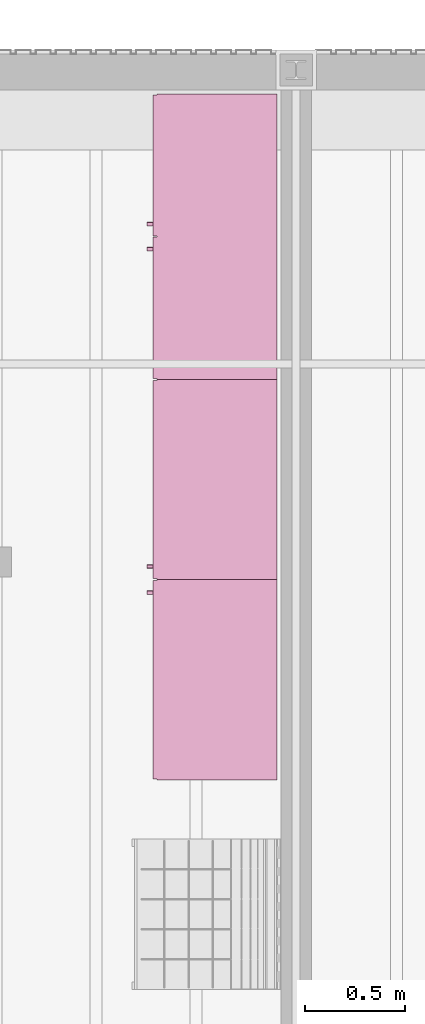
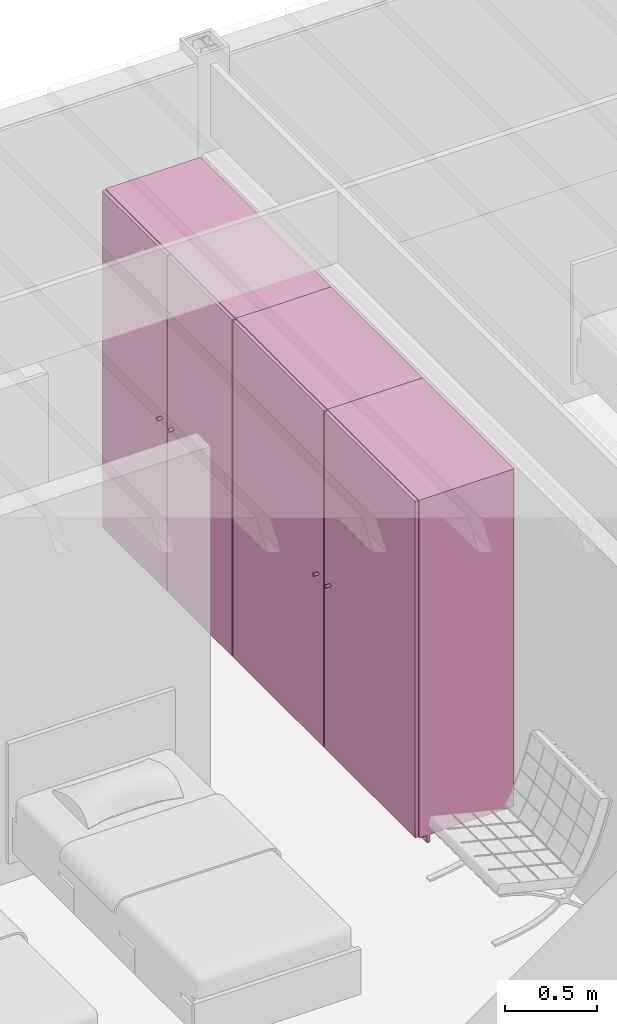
# One storey, part 25 of 28: 3 furniture elements.
"""IFC4X3_ADD2 building model written with IfcOpenShell, lengths in metres."""

from ifc_helpers import new_model, si_unit, direction, frame, frame_2d, origin_with_axes, origin_2d_with_axis, place, context, subcontext, project, spatial, polyline, rectangle, outline, extrude, source, transform, mapped, material, element, save


model = new_model("IFC4X3_ADD2")

# Units and contexts
model_context = context("Model", 3, precision=1e-05, world=origin_with_axes(), true_north=direction((0.0, 1.0)))
body_context = subcontext(model_context, "Body", "Model", "MODEL_VIEW")
ifc_project = project(units=[si_unit("LENGTHUNIT", "METRE"), si_unit("AREAUNIT", "SQUARE_METRE"), si_unit("VOLUMEUNIT", "CUBIC_METRE"), si_unit("PLANEANGLEUNIT", "RADIAN"), si_unit("TIMEUNIT", "SECOND"), si_unit("MASSUNIT", "GRAM")], contexts=[model_context])

# Site, building, storey, space
site_placement = place(None, origin_with_axes())
site = spatial("IfcSite", under=ifc_project, at=site_placement, Name="Site", CompositionType="ELEMENT")
building_placement = place(site_placement, origin_with_axes())
building = spatial("IfcBuilding", under=site, at=building_placement, Name="Default Building")
storey_placement = place(building_placement, frame((0.0, 0.0, -0.08), z_axis=(0.0, 0.0, 1.0), x_axis=(1.0, 0.0, 0.0)))
storey = spatial("IfcBuildingStorey", under=building, at=storey_placement, Name="Gruendung", Elevation=-0.08)
space_placement = place(storey_placement, frame((6.600001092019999, 16.100001, 0.08), z_axis=(0.0, 0.0, 1.0), x_axis=(1.0, 0.0, 0.0)))
space = spatial("IfcSpace", under=storey, at=space_placement, Name="Space", CompositionType="ELEMENT", PredefinedType="SPACE")

# Furniture
ifc_material = material(Name="Default")
shared_shape_1 = source(origin_with_axes(), body_context, "Body", "SweptSolid", [
    extrude(rectangle(XDim=0.6, YDim=0.02, at=frame_2d((0.0, 0.0), x_axis=(0.0, 1.0))), frame((0.01, 0.3, 0.05000000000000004), z_axis=(0.0, 0.0, 1.0), x_axis=(1.0, 0.0, 0.0)), (0.0, 0.0, 1.0), 2.25),
    extrude(rectangle(XDim=0.6, YDim=0.02000000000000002, at=frame_2d((0.0, 0.0), x_axis=(0.0, 1.0))), frame((1.415, 0.3, 0.05000000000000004), z_axis=(0.0, 0.0, 1.0), x_axis=(1.0, 0.0, 0.0)), (0.0, 0.0, 1.0), 2.25),
    extrude(rectangle(XDim=1.385, YDim=0.6, at=origin_2d_with_axis()), frame((0.7125, 0.3, 2.28), z_axis=(0.0, 0.0, 1.0), x_axis=(1.0, 0.0, 0.0)), (0.0, 0.0, 1.0), 0.01999999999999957),
    extrude(rectangle(XDim=1.385, YDim=0.6, at=origin_2d_with_axis()), frame((0.7125, 0.3, 0.05), z_axis=(0.0, 0.0, 1.0), x_axis=(1.0, 0.0, 0.0)), (0.0, 0.0, 1.0), 0.02),
    extrude(rectangle(XDim=1.385, YDim=0.02000000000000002, at=origin_2d_with_axis()), frame((0.7125, 0.589, 0.06999999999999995), z_axis=(0.0, 0.0, 1.0), x_axis=(1.0, 0.0, 0.0)), (0.0, 0.0, 1.0), 2.21),
    extrude(rectangle(XDim=0.705, YDim=0.02, at=origin_2d_with_axis()), frame((0.3574999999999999, -0.0115, 0.05500000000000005), z_axis=(0.0, 0.0, 1.0), x_axis=(1.0, 0.0, 0.0)), (0.0, 0.0, 1.0), 2.24),
    extrude(rectangle(XDim=0.7049999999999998, YDim=0.02, at=origin_2d_with_axis()), frame((1.0675, -0.0115, 0.05500000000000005), z_axis=(0.0, 0.0, 1.0), x_axis=(1.0, 0.0, 0.0)), (0.0, 0.0, 1.0), 2.24),
    extrude(rectangle(XDim=1.425, YDim=0.02, at=origin_2d_with_axis()), frame((0.7125, 0.06, 0.0), z_axis=(0.0, 0.0, 1.0), x_axis=(1.0, 0.0, 0.0)), (0.0, 0.0, 1.0), 0.05),
    extrude(outline(polyline([(0.00980751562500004, 0.00195048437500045), (0.009951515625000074, 0.0009794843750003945), (0.009999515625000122, 4.843750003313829e-07), (0.009951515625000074, -0.0009795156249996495), (0.00980751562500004, -0.001950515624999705), (0.009568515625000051, -0.002902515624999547), (0.00923851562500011, -0.003826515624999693), (0.008818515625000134, -0.004713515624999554), (0.008314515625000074, -0.005555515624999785), (0.007729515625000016, -0.006343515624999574), (0.007070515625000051, -0.007070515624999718), (0.006343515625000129, -0.007729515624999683), (0.005555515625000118, -0.008314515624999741), (0.004713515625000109, -0.008818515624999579), (0.003826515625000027, -0.009238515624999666), (0.002902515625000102, -0.009568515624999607), (0.001950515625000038, -0.009807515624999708), (0.0009795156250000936, -0.00995151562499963), (-4.843749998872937e-07, -0.009999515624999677), (-0.0009794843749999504, -0.00995151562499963), (-0.001950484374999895, -0.009807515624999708), (-0.002902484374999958, -0.009568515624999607), (-0.003826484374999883, -0.009238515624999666), (-0.004713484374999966, -0.008818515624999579), (-0.005555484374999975, -0.008314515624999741), (-0.006343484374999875, -0.007729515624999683), (-0.007070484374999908, -0.007070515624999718), (-0.007729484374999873, -0.006343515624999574), (-0.008314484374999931, -0.005555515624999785), (-0.00881848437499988, -0.004713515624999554), (-0.009238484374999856, -0.003826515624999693), (-0.009568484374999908, -0.002902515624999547), (-0.009807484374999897, -0.001950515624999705), (-0.00995148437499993, -0.0009795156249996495), (-0.009999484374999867, 4.843750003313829e-07), (-0.00995148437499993, 0.0009794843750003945), (-0.009807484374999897, 0.00195048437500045), (-0.009568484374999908, 0.002902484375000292), (-0.009238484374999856, 0.003826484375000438), (-0.00881848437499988, 0.004713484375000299), (-0.008314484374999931, 0.005555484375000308), (-0.007729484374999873, 0.006343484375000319), (-0.007070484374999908, 0.007070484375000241), (-0.006343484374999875, 0.007729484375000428), (-0.005555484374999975, 0.008314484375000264), (-0.004713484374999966, 0.008818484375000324), (-0.003826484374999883, 0.00923848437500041), (-0.002902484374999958, 0.009568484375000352), (-0.001950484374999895, 0.009807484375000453), (-0.0009794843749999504, 0.009951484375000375), (-4.843749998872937e-07, 0.009999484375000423), (0.0009795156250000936, 0.009951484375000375), (0.001950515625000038, 0.009807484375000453), (0.002902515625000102, 0.009568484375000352), (0.003826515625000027, 0.00923848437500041), (0.004713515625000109, 0.008818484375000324), (0.005555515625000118, 0.008314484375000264), (0.006343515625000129, 0.007729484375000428), (0.007070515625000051, 0.007070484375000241), (0.007729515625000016, 0.006343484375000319), (0.008314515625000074, 0.005555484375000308), (0.008818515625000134, 0.004713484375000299), (0.00923851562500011, 0.003826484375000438), (0.009568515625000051, 0.002902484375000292), (0.00980751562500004, 0.00195048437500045)])), frame((0.6500004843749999, -0.05149999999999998, 1.175000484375), z_axis=(0.0, 1.0, 0.0), x_axis=(1.0, 0.0, 0.0)), (0.0, 0.0, 1.0), 0.02999999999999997),
    extrude(outline(polyline([(0.00980751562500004, 0.00195048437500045), (0.009951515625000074, 0.0009794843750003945), (0.009999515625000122, 4.843750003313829e-07), (0.009951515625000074, -0.0009795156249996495), (0.00980751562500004, -0.001950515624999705), (0.009568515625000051, -0.002902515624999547), (0.00923851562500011, -0.003826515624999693), (0.008818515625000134, -0.004713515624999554), (0.008314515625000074, -0.005555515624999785), (0.007729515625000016, -0.006343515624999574), (0.007070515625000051, -0.007070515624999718), (0.006343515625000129, -0.007729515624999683), (0.005555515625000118, -0.008314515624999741), (0.004713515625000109, -0.008818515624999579), (0.003826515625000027, -0.009238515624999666), (0.002902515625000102, -0.009568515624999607), (0.001950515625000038, -0.009807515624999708), (0.0009795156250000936, -0.00995151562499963), (-4.843749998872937e-07, -0.009999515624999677), (-0.0009794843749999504, -0.00995151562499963), (-0.001950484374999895, -0.009807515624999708), (-0.002902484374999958, -0.009568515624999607), (-0.003826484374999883, -0.009238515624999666), (-0.004713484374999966, -0.008818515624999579), (-0.005555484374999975, -0.008314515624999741), (-0.006343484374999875, -0.007729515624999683), (-0.007070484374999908, -0.007070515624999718), (-0.007729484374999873, -0.006343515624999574), (-0.008314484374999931, -0.005555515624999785), (-0.00881848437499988, -0.004713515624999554), (-0.009238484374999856, -0.003826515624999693), (-0.009568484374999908, -0.002902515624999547), (-0.009807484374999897, -0.001950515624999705), (-0.00995148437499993, -0.0009795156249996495), (-0.009999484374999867, 4.843750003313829e-07), (-0.00995148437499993, 0.0009794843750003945), (-0.009807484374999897, 0.00195048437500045), (-0.009568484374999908, 0.002902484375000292), (-0.009238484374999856, 0.003826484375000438), (-0.00881848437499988, 0.004713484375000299), (-0.008314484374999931, 0.005555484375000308), (-0.007729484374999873, 0.006343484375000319), (-0.007070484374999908, 0.007070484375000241), (-0.006343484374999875, 0.007729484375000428), (-0.005555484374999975, 0.008314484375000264), (-0.004713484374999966, 0.008818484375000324), (-0.003826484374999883, 0.00923848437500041), (-0.002902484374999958, 0.009568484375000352), (-0.001950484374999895, 0.009807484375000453), (-0.0009794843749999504, 0.009951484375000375), (-4.843749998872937e-07, 0.009999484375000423), (0.0009795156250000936, 0.009951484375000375), (0.001950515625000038, 0.009807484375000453), (0.002902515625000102, 0.009568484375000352), (0.003826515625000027, 0.00923848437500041), (0.004713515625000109, 0.008818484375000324), (0.005555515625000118, 0.008314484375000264), (0.006343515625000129, 0.007729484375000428), (0.007070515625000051, 0.007070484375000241), (0.007729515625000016, 0.006343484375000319), (0.008314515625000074, 0.005555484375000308), (0.008818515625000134, 0.004713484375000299), (0.00923851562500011, 0.003826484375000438), (0.009568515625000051, 0.002902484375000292), (0.00980751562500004, 0.00195048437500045)])), frame((0.7750004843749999, -0.05149999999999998, 1.175000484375), z_axis=(0.0, 1.0, 0.0), x_axis=(1.0, 0.0, 0.0)), (0.0, 0.0, 1.0), 0.02999999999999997),
])
furniture_1_placement = place(storey_placement, frame((11.805, 21.88, 0.08), z_axis=(0.0, 0.0, 1.0), x_axis=(0.0, -1.0, 0.0)))
element("IfcFurniture", 1, at=furniture_1_placement, inside=space, material=ifc_material, Name="IfcFurniture", PredefinedType="FILECABINET", context=body_context, shape_type="MappedRepresentation", body=[
    mapped(shared_shape_1, transform((0.0, 0.0, 0.0))),
])
shared_shape_2 = source(origin_with_axes(), body_context, "Body", "SweptSolid", [
    extrude(rectangle(XDim=0.6, YDim=0.02, at=frame_2d((0.0, 0.0), x_axis=(0.0, 1.0))), frame((0.01, 0.3, 0.05000000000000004), z_axis=(0.0, 0.0, 1.0), x_axis=(1.0, 0.0, 0.0)), (0.0, 0.0, 1.0), 2.25),
    extrude(rectangle(XDim=0.6, YDim=0.02000000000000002, at=frame_2d((0.0, 0.0), x_axis=(0.0, 1.0))), frame((0.99, 0.3, 0.05000000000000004), z_axis=(0.0, 0.0, 1.0), x_axis=(1.0, 0.0, 0.0)), (0.0, 0.0, 1.0), 2.25),
    extrude(rectangle(XDim=0.96, YDim=0.6, at=origin_2d_with_axis()), frame((0.5, 0.3, 2.28), z_axis=(0.0, 0.0, 1.0), x_axis=(1.0, 0.0, 0.0)), (0.0, 0.0, 1.0), 0.01999999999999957),
    extrude(rectangle(XDim=0.96, YDim=0.6, at=origin_2d_with_axis()), frame((0.5, 0.3, 0.05), z_axis=(0.0, 0.0, 1.0), x_axis=(1.0, 0.0, 0.0)), (0.0, 0.0, 1.0), 0.02),
    extrude(rectangle(XDim=0.96, YDim=0.02000000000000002, at=origin_2d_with_axis()), frame((0.5, 0.589, 0.06999999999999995), z_axis=(0.0, 0.0, 1.0), x_axis=(1.0, 0.0, 0.0)), (0.0, 0.0, 1.0), 2.21),
    extrude(rectangle(XDim=0.99, YDim=0.02, at=origin_2d_with_axis()), frame((0.5, -0.0115, 0.05500000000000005), z_axis=(0.0, 0.0, 1.0), x_axis=(1.0, 0.0, 0.0)), (0.0, 0.0, 1.0), 2.24),
    extrude(rectangle(XDim=1.0, YDim=0.02, at=origin_2d_with_axis()), frame((0.5, 0.06, 0.0), z_axis=(0.0, 0.0, 1.0), x_axis=(1.0, 0.0, 0.0)), (0.0, 0.0, 1.0), 0.05),
    extrude(outline(polyline([(0.00980751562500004, 0.00195048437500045), (0.009951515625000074, 0.0009794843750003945), (0.009999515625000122, 4.843750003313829e-07), (0.009951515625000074, -0.0009795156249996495), (0.00980751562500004, -0.001950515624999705), (0.009568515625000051, -0.002902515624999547), (0.00923851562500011, -0.003826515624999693), (0.008818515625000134, -0.004713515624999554), (0.008314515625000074, -0.005555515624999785), (0.007729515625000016, -0.006343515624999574), (0.007070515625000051, -0.007070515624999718), (0.006343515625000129, -0.007729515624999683), (0.005555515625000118, -0.008314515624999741), (0.004713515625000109, -0.008818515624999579), (0.003826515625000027, -0.009238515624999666), (0.002902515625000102, -0.009568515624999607), (0.001950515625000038, -0.009807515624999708), (0.0009795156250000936, -0.00995151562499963), (-4.843749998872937e-07, -0.009999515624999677), (-0.0009794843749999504, -0.00995151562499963), (-0.001950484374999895, -0.009807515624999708), (-0.002902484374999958, -0.009568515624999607), (-0.003826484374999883, -0.009238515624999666), (-0.004713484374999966, -0.008818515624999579), (-0.005555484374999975, -0.008314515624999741), (-0.006343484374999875, -0.007729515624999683), (-0.007070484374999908, -0.007070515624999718), (-0.007729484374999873, -0.006343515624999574), (-0.008314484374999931, -0.005555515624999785), (-0.00881848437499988, -0.004713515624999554), (-0.009238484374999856, -0.003826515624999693), (-0.009568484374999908, -0.002902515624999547), (-0.009807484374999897, -0.001950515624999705), (-0.00995148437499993, -0.0009795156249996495), (-0.009999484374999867, 4.843750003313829e-07), (-0.00995148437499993, 0.0009794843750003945), (-0.009807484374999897, 0.00195048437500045), (-0.009568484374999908, 0.002902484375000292), (-0.009238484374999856, 0.003826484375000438), (-0.00881848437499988, 0.004713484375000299), (-0.008314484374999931, 0.005555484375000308), (-0.007729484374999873, 0.006343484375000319), (-0.007070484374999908, 0.007070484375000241), (-0.006343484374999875, 0.007729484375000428), (-0.005555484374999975, 0.008314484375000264), (-0.004713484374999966, 0.008818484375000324), (-0.003826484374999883, 0.00923848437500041), (-0.002902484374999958, 0.009568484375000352), (-0.001950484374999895, 0.009807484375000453), (-0.0009794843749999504, 0.009951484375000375), (-4.843749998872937e-07, 0.009999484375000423), (0.0009795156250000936, 0.009951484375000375), (0.001950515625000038, 0.009807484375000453), (0.002902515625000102, 0.009568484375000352), (0.003826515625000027, 0.00923848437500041), (0.004713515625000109, 0.008818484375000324), (0.005555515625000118, 0.008314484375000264), (0.006343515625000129, 0.007729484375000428), (0.007070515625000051, 0.007070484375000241), (0.007729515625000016, 0.006343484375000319), (0.008314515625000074, 0.005555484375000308), (0.008818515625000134, 0.004713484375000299), (0.00923851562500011, 0.003826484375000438), (0.009568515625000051, 0.002902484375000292), (0.00980751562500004, 0.00195048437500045)])), frame((0.9350004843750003, -0.05149999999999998, 1.175000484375), z_axis=(0.0, 1.0, 0.0), x_axis=(1.0, 0.0, 0.0)), (0.0, 0.0, 1.0), 0.02999999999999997),
])
furniture_2_placement = place(storey_placement, frame((11.805, 20.455, 0.08), z_axis=(0.0, 0.0, 1.0), x_axis=(0.0, -1.0, 0.0)))
element("IfcFurniture", 2, at=furniture_2_placement, inside=space, material=ifc_material, Name="IfcFurniture", PredefinedType="FILECABINET", context=body_context, shape_type="MappedRepresentation", body=[
    mapped(shared_shape_2, transform((0.0, 0.0, 0.0))),
])
shared_shape_3 = source(origin_with_axes(), body_context, "Body", "SweptSolid", [
    extrude(rectangle(XDim=0.6, YDim=0.02, at=frame_2d((0.0, 0.0), x_axis=(0.0, 1.0))), frame((0.01, 0.3, 0.05000000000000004), z_axis=(0.0, 0.0, 1.0), x_axis=(1.0, 0.0, 0.0)), (0.0, 0.0, 1.0), 2.25),
    extrude(rectangle(XDim=0.6, YDim=0.02000000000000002, at=frame_2d((0.0, 0.0), x_axis=(0.0, 1.0))), frame((0.99, 0.3, 0.05000000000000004), z_axis=(0.0, 0.0, 1.0), x_axis=(1.0, 0.0, 0.0)), (0.0, 0.0, 1.0), 2.25),
    extrude(rectangle(XDim=0.96, YDim=0.6, at=origin_2d_with_axis()), frame((0.5, 0.3, 2.28), z_axis=(0.0, 0.0, 1.0), x_axis=(1.0, 0.0, 0.0)), (0.0, 0.0, 1.0), 0.01999999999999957),
    extrude(rectangle(XDim=0.96, YDim=0.6, at=origin_2d_with_axis()), frame((0.5, 0.3, 0.05), z_axis=(0.0, 0.0, 1.0), x_axis=(1.0, 0.0, 0.0)), (0.0, 0.0, 1.0), 0.02),
    extrude(rectangle(XDim=0.96, YDim=0.02000000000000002, at=origin_2d_with_axis()), frame((0.5, 0.589, 0.06999999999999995), z_axis=(0.0, 0.0, 1.0), x_axis=(1.0, 0.0, 0.0)), (0.0, 0.0, 1.0), 2.21),
    extrude(rectangle(XDim=0.99, YDim=0.02, at=origin_2d_with_axis()), frame((0.5, -0.0115, 0.05500000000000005), z_axis=(0.0, 0.0, 1.0), x_axis=(1.0, 0.0, 0.0)), (0.0, 0.0, 1.0), 2.24),
    extrude(rectangle(XDim=1.0, YDim=0.02, at=origin_2d_with_axis()), frame((0.5, 0.06, 0.0), z_axis=(0.0, 0.0, 1.0), x_axis=(1.0, 0.0, 0.0)), (0.0, 0.0, 1.0), 0.05),
    extrude(outline(polyline([(0.00980751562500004, 0.00195048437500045), (0.009951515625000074, 0.0009794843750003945), (0.009999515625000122, 4.843750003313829e-07), (0.009951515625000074, -0.0009795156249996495), (0.00980751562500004, -0.001950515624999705), (0.009568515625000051, -0.002902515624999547), (0.00923851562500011, -0.003826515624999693), (0.008818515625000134, -0.004713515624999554), (0.008314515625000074, -0.005555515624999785), (0.007729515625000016, -0.006343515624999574), (0.007070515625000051, -0.007070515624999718), (0.006343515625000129, -0.007729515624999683), (0.005555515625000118, -0.008314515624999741), (0.004713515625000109, -0.008818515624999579), (0.003826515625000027, -0.009238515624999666), (0.002902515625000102, -0.009568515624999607), (0.001950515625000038, -0.009807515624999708), (0.0009795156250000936, -0.00995151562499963), (-4.843749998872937e-07, -0.009999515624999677), (-0.0009794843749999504, -0.00995151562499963), (-0.001950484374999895, -0.009807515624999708), (-0.002902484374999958, -0.009568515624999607), (-0.003826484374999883, -0.009238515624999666), (-0.004713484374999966, -0.008818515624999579), (-0.005555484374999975, -0.008314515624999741), (-0.006343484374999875, -0.007729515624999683), (-0.007070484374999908, -0.007070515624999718), (-0.007729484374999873, -0.006343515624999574), (-0.008314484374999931, -0.005555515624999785), (-0.00881848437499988, -0.004713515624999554), (-0.009238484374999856, -0.003826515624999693), (-0.009568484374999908, -0.002902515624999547), (-0.009807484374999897, -0.001950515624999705), (-0.00995148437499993, -0.0009795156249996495), (-0.009999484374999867, 4.843750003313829e-07), (-0.00995148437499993, 0.0009794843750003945), (-0.009807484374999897, 0.00195048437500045), (-0.009568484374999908, 0.002902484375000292), (-0.009238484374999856, 0.003826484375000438), (-0.00881848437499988, 0.004713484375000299), (-0.008314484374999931, 0.005555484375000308), (-0.007729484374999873, 0.006343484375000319), (-0.007070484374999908, 0.007070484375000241), (-0.006343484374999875, 0.007729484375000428), (-0.005555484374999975, 0.008314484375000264), (-0.004713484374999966, 0.008818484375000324), (-0.003826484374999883, 0.00923848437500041), (-0.002902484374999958, 0.009568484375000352), (-0.001950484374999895, 0.009807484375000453), (-0.0009794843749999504, 0.009951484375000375), (-4.843749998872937e-07, 0.009999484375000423), (0.0009795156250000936, 0.009951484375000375), (0.001950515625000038, 0.009807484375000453), (0.002902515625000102, 0.009568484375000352), (0.003826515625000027, 0.00923848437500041), (0.004713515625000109, 0.008818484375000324), (0.005555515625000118, 0.008314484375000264), (0.006343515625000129, 0.007729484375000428), (0.007070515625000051, 0.007070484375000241), (0.007729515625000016, 0.006343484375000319), (0.008314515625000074, 0.005555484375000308), (0.008818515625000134, 0.004713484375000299), (0.00923851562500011, 0.003826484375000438), (0.009568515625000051, 0.002902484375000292), (0.00980751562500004, 0.00195048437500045)])), frame((0.06500048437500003, -0.05149999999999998, 1.175000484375), z_axis=(0.0, 1.0, 0.0), x_axis=(1.0, 0.0, 0.0)), (0.0, 0.0, 1.0), 0.02999999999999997),
])
furniture_3_placement = place(storey_placement, frame((11.805, 19.455, 0.08), z_axis=(0.0, 0.0, 1.0), x_axis=(0.0, -1.0, 0.0)))
element("IfcFurniture", 3, at=furniture_3_placement, inside=space, material=ifc_material, Name="IfcFurniture", PredefinedType="FILECABINET", context=body_context, shape_type="MappedRepresentation", body=[
    mapped(shared_shape_3, transform((0.0, 0.0, 0.0))),
])

save(model, "model.ifc")
